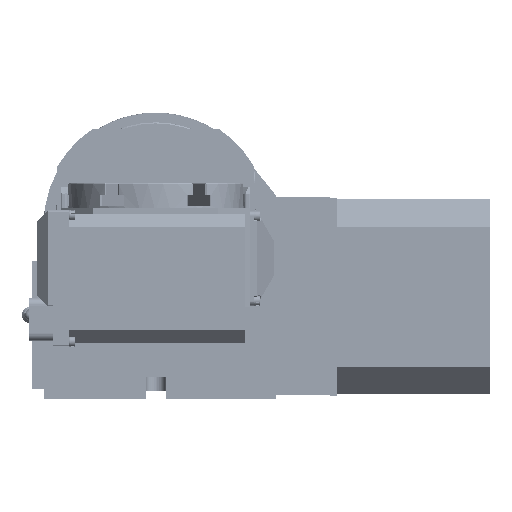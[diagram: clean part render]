
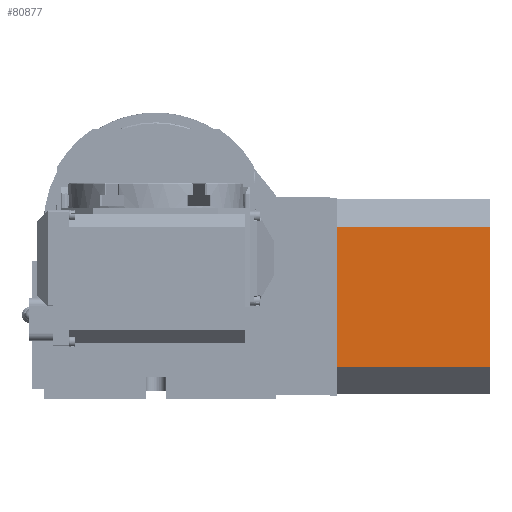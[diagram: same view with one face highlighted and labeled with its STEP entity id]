
A CAD part, front view. The second image highlights one B-rep face of the part: STEP entity #80877.
In plain terms, the highlighted planar face has unit normal (0, -1, 0) as drawn and (1, 0, 0) by its records, which use the part's own axes.
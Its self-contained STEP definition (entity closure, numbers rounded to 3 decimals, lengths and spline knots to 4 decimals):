
#12407=FACE_OUTER_BOUND('',#17803,.T.);
#17803=EDGE_LOOP('',(#73579,#73580,#73581,#73582));
#24871=LINE('',#168251,#31964);
#24872=LINE('',#168254,#31965);
#24873=LINE('',#168256,#31966);
#24874=LINE('',#168257,#31967);
#31964=VECTOR('',#112489,0.3937);
#31965=VECTOR('',#112492,0.3937);
#31966=VECTOR('',#112493,0.3937);
#31967=VECTOR('',#112494,0.3937);
#39529=VERTEX_POINT('',#168247);
#39530=VERTEX_POINT('',#168249);
#39531=VERTEX_POINT('',#168253);
#39532=VERTEX_POINT('',#168255);
#50897=EDGE_CURVE('',#39529,#39530,#24871,.T.);
#50898=EDGE_CURVE('',#39529,#39531,#24872,.T.);
#50899=EDGE_CURVE('',#39532,#39530,#24873,.T.);
#50900=EDGE_CURVE('',#39531,#39532,#24874,.T.);
#73579=ORIENTED_EDGE('',*,*,#50898,.F.);
#73580=ORIENTED_EDGE('',*,*,#50897,.T.);
#73581=ORIENTED_EDGE('',*,*,#50899,.F.);
#73582=ORIENTED_EDGE('',*,*,#50900,.F.);
#76302=PLANE('',#89353);
#80877=ADVANCED_FACE('',(#12407),#76302,.T.);
#89353=AXIS2_PLACEMENT_3D('',#168252,#112490,#112491);
#112489=DIRECTION('',(0.,0.,1.));
#112490=DIRECTION('center_axis',(1.,0.,0.));
#112491=DIRECTION('ref_axis',(0.,1.,0.));
#112492=DIRECTION('',(0.,-1.,0.));
#112493=DIRECTION('',(0.,1.,0.));
#112494=DIRECTION('',(0.,0.,1.));
#168247=CARTESIAN_POINT('',(2.3875,5.2895,0.225));
#168249=CARTESIAN_POINT('',(2.3875,5.2895,5.));
#168251=CARTESIAN_POINT('',(2.3875,5.2895,0.225));
#168252=CARTESIAN_POINT('Origin',(2.3875,0.8985,0.225));
#168253=CARTESIAN_POINT('',(2.3875,0.8985,0.225));
#168254=CARTESIAN_POINT('',(2.3875,1.9963,0.225));
#168255=CARTESIAN_POINT('',(2.3875,0.8985,5.));
#168256=CARTESIAN_POINT('',(2.3875,0.8985,5.));
#168257=CARTESIAN_POINT('',(2.3875,0.8985,0.225));
